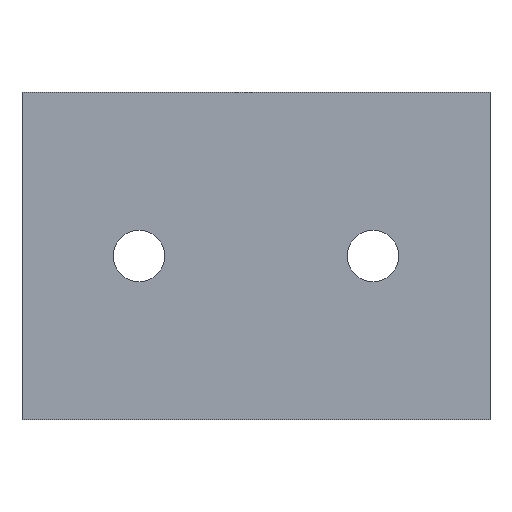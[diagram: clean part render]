
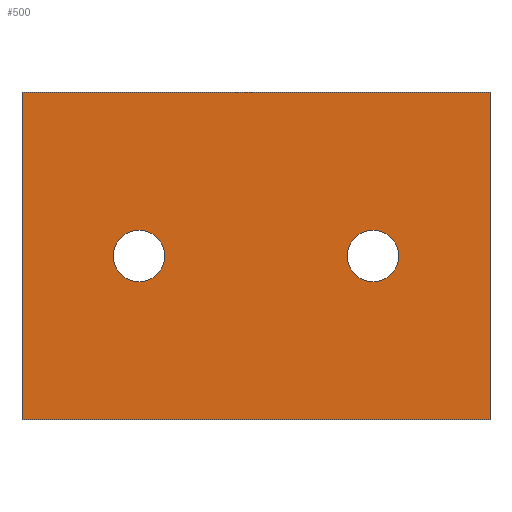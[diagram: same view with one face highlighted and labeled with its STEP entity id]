
A CAD part, top view. The second image highlights one B-rep face of the part: STEP entity #500.
In plain terms, the highlighted planar face has unit normal (0, 0, 1).
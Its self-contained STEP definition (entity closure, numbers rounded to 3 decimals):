
#24 = VERTEX_POINT('',#25);
#25 = CARTESIAN_POINT('',(-50.,-35.,6.));
#32 = PLANE('',#33);
#33 = AXIS2_PLACEMENT_3D('',#34,#35,#36);
#34 = CARTESIAN_POINT('',(-50.,-35.,0.));
#35 = DIRECTION('',(0.,1.,0.));
#36 = DIRECTION('',(1.,0.,0.));
#44 = PLANE('',#45);
#45 = AXIS2_PLACEMENT_3D('',#46,#47,#48);
#46 = CARTESIAN_POINT('',(-50.,35.,0.));
#47 = DIRECTION('',(1.,0.,-0.));
#48 = DIRECTION('',(0.,-1.,0.));
#56 = EDGE_CURVE('',#24,#57,#59,.T.);
#57 = VERTEX_POINT('',#58);
#58 = CARTESIAN_POINT('',(50.,-35.,6.));
#59 = SURFACE_CURVE('',#60,(#64,#71),.PCURVE_S1.);
#60 = LINE('',#61,#62);
#61 = CARTESIAN_POINT('',(-50.,-35.,6.));
#62 = VECTOR('',#63,1.);
#63 = DIRECTION('',(1.,0.,0.));
#64 = PCURVE('',#32,#65);
#65 = DEFINITIONAL_REPRESENTATION('',(#66),#70);
#66 = LINE('',#67,#68);
#67 = CARTESIAN_POINT('',(0.,-6.));
#68 = VECTOR('',#69,1.);
#69 = DIRECTION('',(1.,0.));
#70 = ( GEOMETRIC_REPRESENTATION_CONTEXT(2) 
PARAMETRIC_REPRESENTATION_CONTEXT() REPRESENTATION_CONTEXT('2D SPACE',''
  ) );
#71 = PCURVE('',#72,#77);
#72 = PLANE('',#73);
#73 = AXIS2_PLACEMENT_3D('',#74,#75,#76);
#74 = CARTESIAN_POINT('',(0.,0.,6.));
#75 = DIRECTION('',(0.,0.,1.));
#76 = DIRECTION('',(1.,0.,-0.));
#77 = DEFINITIONAL_REPRESENTATION('',(#78),#82);
#78 = LINE('',#79,#80);
#79 = CARTESIAN_POINT('',(-50.,-35.));
#80 = VECTOR('',#81,1.);
#81 = DIRECTION('',(1.,0.));
#82 = ( GEOMETRIC_REPRESENTATION_CONTEXT(2) 
PARAMETRIC_REPRESENTATION_CONTEXT() REPRESENTATION_CONTEXT('2D SPACE',''
  ) );
#100 = PLANE('',#101);
#101 = AXIS2_PLACEMENT_3D('',#102,#103,#104);
#102 = CARTESIAN_POINT('',(50.,-35.,0.));
#103 = DIRECTION('',(-1.,0.,0.));
#104 = DIRECTION('',(0.,1.,0.));
#142 = EDGE_CURVE('',#57,#143,#145,.T.);
#143 = VERTEX_POINT('',#144);
#144 = CARTESIAN_POINT('',(50.,35.,6.));
#145 = SURFACE_CURVE('',#146,(#150,#157),.PCURVE_S1.);
#146 = LINE('',#147,#148);
#147 = CARTESIAN_POINT('',(50.,-35.,6.));
#148 = VECTOR('',#149,1.);
#149 = DIRECTION('',(0.,1.,0.));
#150 = PCURVE('',#100,#151);
#151 = DEFINITIONAL_REPRESENTATION('',(#152),#156);
#152 = LINE('',#153,#154);
#153 = CARTESIAN_POINT('',(0.,-6.));
#154 = VECTOR('',#155,1.);
#155 = DIRECTION('',(1.,0.));
#156 = ( GEOMETRIC_REPRESENTATION_CONTEXT(2) 
PARAMETRIC_REPRESENTATION_CONTEXT() REPRESENTATION_CONTEXT('2D SPACE',''
  ) );
#157 = PCURVE('',#72,#158);
#158 = DEFINITIONAL_REPRESENTATION('',(#159),#163);
#159 = LINE('',#160,#161);
#160 = CARTESIAN_POINT('',(50.,-35.));
#161 = VECTOR('',#162,1.);
#162 = DIRECTION('',(0.,1.));
#163 = ( GEOMETRIC_REPRESENTATION_CONTEXT(2) 
PARAMETRIC_REPRESENTATION_CONTEXT() REPRESENTATION_CONTEXT('2D SPACE',''
  ) );
#181 = PLANE('',#182);
#182 = AXIS2_PLACEMENT_3D('',#183,#184,#185);
#183 = CARTESIAN_POINT('',(50.,35.,0.));
#184 = DIRECTION('',(0.,-1.,0.));
#185 = DIRECTION('',(-1.,0.,0.));
#218 = EDGE_CURVE('',#143,#219,#221,.T.);
#219 = VERTEX_POINT('',#220);
#220 = CARTESIAN_POINT('',(-50.,35.,6.));
#221 = SURFACE_CURVE('',#222,(#226,#233),.PCURVE_S1.);
#222 = LINE('',#223,#224);
#223 = CARTESIAN_POINT('',(50.,35.,6.));
#224 = VECTOR('',#225,1.);
#225 = DIRECTION('',(-1.,0.,0.));
#226 = PCURVE('',#181,#227);
#227 = DEFINITIONAL_REPRESENTATION('',(#228),#232);
#228 = LINE('',#229,#230);
#229 = CARTESIAN_POINT('',(0.,-6.));
#230 = VECTOR('',#231,1.);
#231 = DIRECTION('',(1.,0.));
#232 = ( GEOMETRIC_REPRESENTATION_CONTEXT(2) 
PARAMETRIC_REPRESENTATION_CONTEXT() REPRESENTATION_CONTEXT('2D SPACE',''
  ) );
#233 = PCURVE('',#72,#234);
#234 = DEFINITIONAL_REPRESENTATION('',(#235),#239);
#235 = LINE('',#236,#237);
#236 = CARTESIAN_POINT('',(50.,35.));
#237 = VECTOR('',#238,1.);
#238 = DIRECTION('',(-1.,0.));
#239 = ( GEOMETRIC_REPRESENTATION_CONTEXT(2) 
PARAMETRIC_REPRESENTATION_CONTEXT() REPRESENTATION_CONTEXT('2D SPACE',''
  ) );
#289 = EDGE_CURVE('',#219,#24,#290,.T.);
#290 = SURFACE_CURVE('',#291,(#295,#302),.PCURVE_S1.);
#291 = LINE('',#292,#293);
#292 = CARTESIAN_POINT('',(-50.,35.,6.));
#293 = VECTOR('',#294,1.);
#294 = DIRECTION('',(0.,-1.,0.));
#295 = PCURVE('',#44,#296);
#296 = DEFINITIONAL_REPRESENTATION('',(#297),#301);
#297 = LINE('',#298,#299);
#298 = CARTESIAN_POINT('',(0.,-6.));
#299 = VECTOR('',#300,1.);
#300 = DIRECTION('',(1.,0.));
#301 = ( GEOMETRIC_REPRESENTATION_CONTEXT(2) 
PARAMETRIC_REPRESENTATION_CONTEXT() REPRESENTATION_CONTEXT('2D SPACE',''
  ) );
#302 = PCURVE('',#72,#303);
#303 = DEFINITIONAL_REPRESENTATION('',(#304),#308);
#304 = LINE('',#305,#306);
#305 = CARTESIAN_POINT('',(-50.,35.));
#306 = VECTOR('',#307,1.);
#307 = DIRECTION('',(0.,-1.));
#308 = ( GEOMETRIC_REPRESENTATION_CONTEXT(2) 
PARAMETRIC_REPRESENTATION_CONTEXT() REPRESENTATION_CONTEXT('2D SPACE',''
  ) );
#338 = VERTEX_POINT('',#339);
#339 = CARTESIAN_POINT('',(-19.5,0.,6.));
#346 = CYLINDRICAL_SURFACE('',#347,5.5);
#347 = AXIS2_PLACEMENT_3D('',#348,#349,#350);
#348 = CARTESIAN_POINT('',(-25.,0.,0.));
#349 = DIRECTION('',(-0.,-0.,-1.));
#350 = DIRECTION('',(1.,0.,-0.));
#365 = EDGE_CURVE('',#338,#338,#366,.T.);
#366 = SURFACE_CURVE('',#367,(#372,#379),.PCURVE_S1.);
#367 = CIRCLE('',#368,5.5);
#368 = AXIS2_PLACEMENT_3D('',#369,#370,#371);
#369 = CARTESIAN_POINT('',(-25.,0.,6.));
#370 = DIRECTION('',(0.,0.,1.));
#371 = DIRECTION('',(1.,0.,-0.));
#372 = PCURVE('',#346,#373);
#373 = DEFINITIONAL_REPRESENTATION('',(#374),#378);
#374 = LINE('',#375,#376);
#375 = CARTESIAN_POINT('',(-0.,-6.));
#376 = VECTOR('',#377,1.);
#377 = DIRECTION('',(-1.,0.));
#378 = ( GEOMETRIC_REPRESENTATION_CONTEXT(2) 
PARAMETRIC_REPRESENTATION_CONTEXT() REPRESENTATION_CONTEXT('2D SPACE',''
  ) );
#379 = PCURVE('',#72,#380);
#380 = DEFINITIONAL_REPRESENTATION('',(#381),#385);
#381 = CIRCLE('',#382,5.5);
#382 = AXIS2_PLACEMENT_2D('',#383,#384);
#383 = CARTESIAN_POINT('',(-25.,0.));
#384 = DIRECTION('',(1.,0.));
#385 = ( GEOMETRIC_REPRESENTATION_CONTEXT(2) 
PARAMETRIC_REPRESENTATION_CONTEXT() REPRESENTATION_CONTEXT('2D SPACE',''
  ) );
#416 = VERTEX_POINT('',#417);
#417 = CARTESIAN_POINT('',(30.5,0.,6.));
#424 = CYLINDRICAL_SURFACE('',#425,5.5);
#425 = AXIS2_PLACEMENT_3D('',#426,#427,#428);
#426 = CARTESIAN_POINT('',(25.,0.,0.));
#427 = DIRECTION('',(-0.,-0.,-1.));
#428 = DIRECTION('',(1.,0.,-0.));
#443 = EDGE_CURVE('',#416,#416,#444,.T.);
#444 = SURFACE_CURVE('',#445,(#450,#457),.PCURVE_S1.);
#445 = CIRCLE('',#446,5.5);
#446 = AXIS2_PLACEMENT_3D('',#447,#448,#449);
#447 = CARTESIAN_POINT('',(25.,0.,6.));
#448 = DIRECTION('',(0.,0.,1.));
#449 = DIRECTION('',(1.,0.,-0.));
#450 = PCURVE('',#424,#451);
#451 = DEFINITIONAL_REPRESENTATION('',(#452),#456);
#452 = LINE('',#453,#454);
#453 = CARTESIAN_POINT('',(-0.,-6.));
#454 = VECTOR('',#455,1.);
#455 = DIRECTION('',(-1.,0.));
#456 = ( GEOMETRIC_REPRESENTATION_CONTEXT(2) 
PARAMETRIC_REPRESENTATION_CONTEXT() REPRESENTATION_CONTEXT('2D SPACE',''
  ) );
#457 = PCURVE('',#72,#458);
#458 = DEFINITIONAL_REPRESENTATION('',(#459),#463);
#459 = CIRCLE('',#460,5.5);
#460 = AXIS2_PLACEMENT_2D('',#461,#462);
#461 = CARTESIAN_POINT('',(25.,0.));
#462 = DIRECTION('',(1.,0.));
#463 = ( GEOMETRIC_REPRESENTATION_CONTEXT(2) 
PARAMETRIC_REPRESENTATION_CONTEXT() REPRESENTATION_CONTEXT('2D SPACE',''
  ) );
#500 = ADVANCED_FACE('',(#501,#507,#510),#72,.T.);
#501 = FACE_BOUND('',#502,.T.);
#502 = EDGE_LOOP('',(#503,#504,#505,#506));
#503 = ORIENTED_EDGE('',*,*,#56,.T.);
#504 = ORIENTED_EDGE('',*,*,#142,.T.);
#505 = ORIENTED_EDGE('',*,*,#218,.T.);
#506 = ORIENTED_EDGE('',*,*,#289,.T.);
#507 = FACE_BOUND('',#508,.F.);
#508 = EDGE_LOOP('',(#509));
#509 = ORIENTED_EDGE('',*,*,#365,.T.);
#510 = FACE_BOUND('',#511,.F.);
#511 = EDGE_LOOP('',(#512));
#512 = ORIENTED_EDGE('',*,*,#443,.T.);
